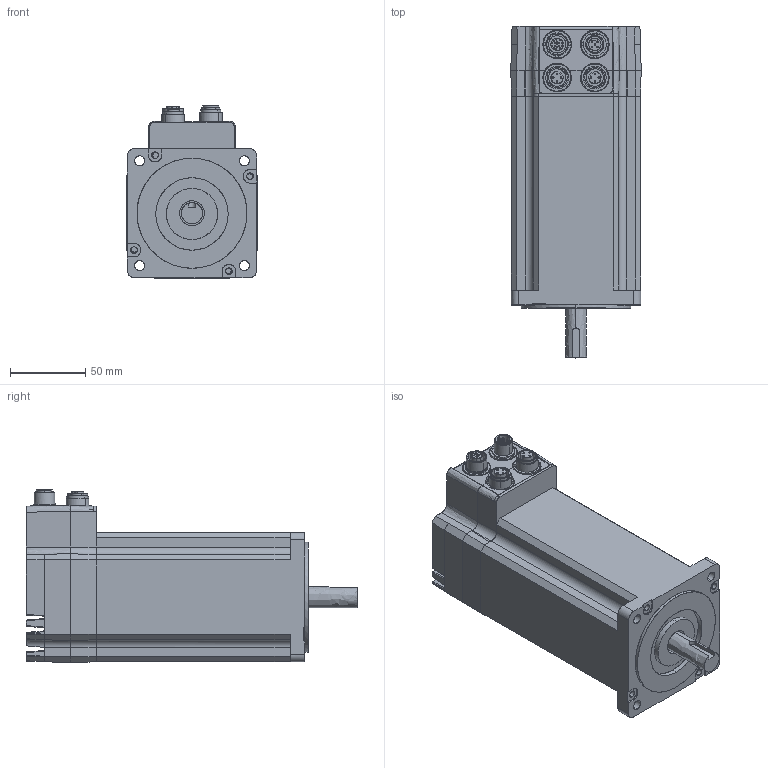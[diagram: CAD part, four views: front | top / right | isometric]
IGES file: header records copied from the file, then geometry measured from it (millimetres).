
Start section: Comment
Global section: file name: MIS343C14xxxx85.igs; native system:  By UGS Corp.; preprocessor: XPlus GENERIC/IGES 3.0; author: Author; organization: Title; date: 20150710.120954; units: millimetre
Bounding box: 86.41 x 220.1 x 114.53 mm (x, y, z)
Surface area: 128250.7 mm2 (no closed solid volume)
Topology: 0 solids, 0 shells, 1168 faces, 5676 edges, 5670 vertices
Faces by surface type: bspline 1168
